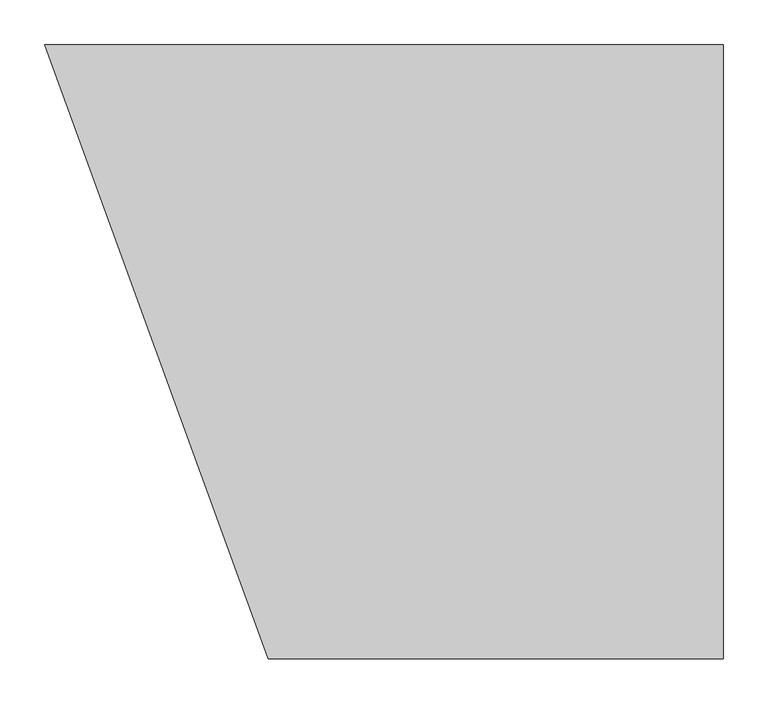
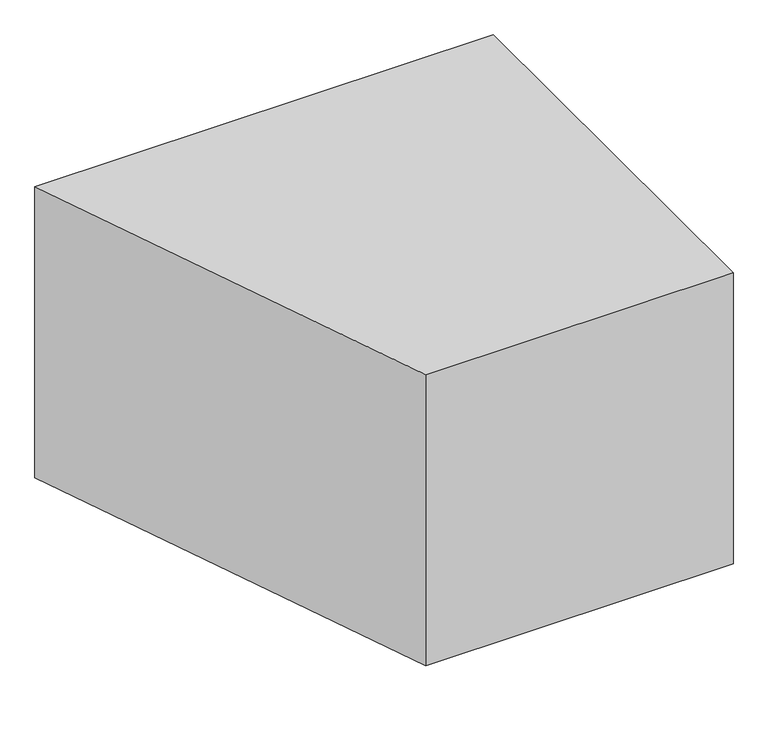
"""IFC4 building model written with IfcOpenShell, lengths in millimetres: proxy geometry, DATUM^OFFICE 2_DESK-RIGHT BASE."""

from ifc_helpers import new_model, si_unit, frame, origin, place, context, project, spatial, polyline, outline, extrude, source, transform, mapped, element, save


def generic_models_3aa4cdc8(model_context):
    return source(origin(), model_context, "Body", "SweptSolid", [
        extrude(outline(polyline([(1270.0, 685.8), (1270.0, 0.0), (762.0, 0.0), (512.3892133, 685.8), (1270.0, 685.8)])), frame((0.0, 0.0, -127.0), z_axis=(0.0, 0.0, 1.0), x_axis=(1.0, 0.0, 0.0)), (0.0, 0.0, 1.0), 508.0),
    ])


if __name__ == "__main__":
    model = new_model("IFC4")
    model_context = context("Model", 3, world=origin())
    ifc_project = project(units=[si_unit("LENGTHUNIT", "METRE", prefix="MILLI")], contexts=[model_context])
    site = spatial("IfcSite", under=ifc_project)
    building = spatial("IfcBuilding", under=site)
    placement = place(None, origin())
    generic_models_shape = generic_models_3aa4cdc8(model_context)
    element("IfcBuildingElementProxy", 1, Name="DATUM^OFFICE 2_DESK-RIGHT BASE", ObjectType="DATUM^OFFICE 2_DESK-RIGHT BASE", at=placement, inside=building, context=model_context, shape_type="MappedRepresentation", body=[
        mapped(generic_models_shape, transform((0.0, 0.0, 0.0), x_axis=(1.0, 0.0, 0.0), y_axis=(0.0, 1.0, 0.0), z_axis=(0.0, 0.0, 1.0))),
    ])
    save(model, "model.ifc")
